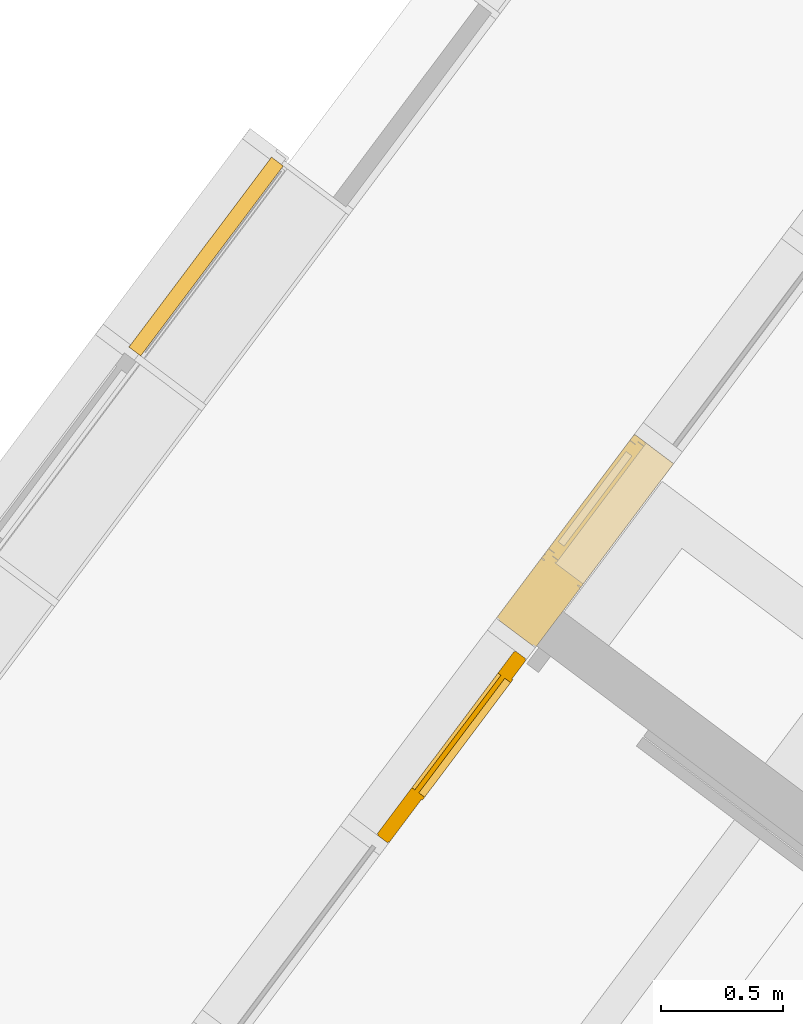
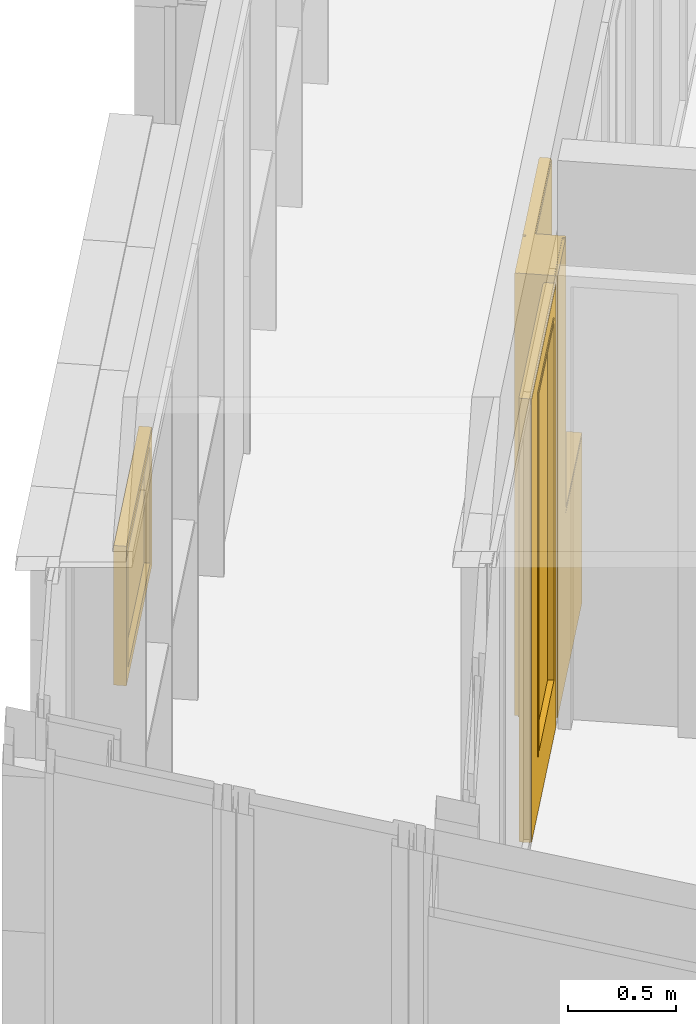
# One storey, part 175 of 243: 2 doors, 1 window, 2 elements without a shape of their own.
"""IFC2X3 building model written with IfcOpenShell, lengths in metres."""

from ifc_helpers import new_model, entity, si_unit, converted_unit, derived_unit, direction, frame, origin, place, context, subcontext, project, spatial, faceted_brep, source, transform, mapped, material, material_list, type_object, type_shapes, element, aggregate, save


model = new_model("IFC2X3")

# Units and contexts
model_context = context("Model", 3, precision=1e-05, world=origin(), true_north=direction((6.123031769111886e-17, 1.0)))
body_context = subcontext(model_context, "Body", "Model", "MODEL_VIEW")
ifc_project = project(units=[si_unit("LENGTHUNIT", "METRE"), si_unit("AREAUNIT", "SQUARE_METRE"), si_unit("VOLUMEUNIT", "CUBIC_METRE"), converted_unit("PLANEANGLEUNIT", "DEGREE", entity("IfcRatioMeasure", 0.017453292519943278), si_unit("PLANEANGLEUNIT", "RADIAN"), dimensions=[0, 0, 0, 0, 0, 0, 0]), si_unit("MASSUNIT", "GRAM", prefix="KILO"), derived_unit("MASSDENSITYUNIT", [(si_unit("MASSUNIT", "GRAM", prefix="KILO"), 1), (si_unit("LENGTHUNIT", "METRE"), -3)]), derived_unit("IONCONCENTRATIONUNIT", [(si_unit("MASSUNIT", "GRAM", prefix="KILO"), 1), (si_unit("LENGTHUNIT", "METRE"), -3)]), derived_unit("MOMENTOFINERTIAUNIT", [(si_unit("LENGTHUNIT", "METRE"), 4)]), si_unit("TIMEUNIT", "SECOND"), si_unit("FREQUENCYUNIT", "HERTZ"), si_unit("THERMODYNAMICTEMPERATUREUNIT", "DEGREE_CELSIUS"), derived_unit("THERMALTRANSMITTANCEUNIT", [(si_unit("MASSUNIT", "GRAM", prefix="KILO"), 1), (si_unit("THERMODYNAMICTEMPERATUREUNIT", "KELVIN"), -1), (si_unit("TIMEUNIT", "SECOND"), -3)]), derived_unit("THERMALCONDUCTANCEUNIT", [(si_unit("MASSUNIT", "GRAM", prefix="KILO"), 1), (si_unit("THERMODYNAMICTEMPERATUREUNIT", "KELVIN"), -1), (si_unit("TIMEUNIT", "SECOND"), -3), (si_unit("LENGTHUNIT", "METRE"), 1)]), derived_unit("VOLUMETRICFLOWRATEUNIT", [(si_unit("LENGTHUNIT", "METRE"), 3), (si_unit("TIMEUNIT", "SECOND"), -1)]), derived_unit("MASSFLOWRATEUNIT", [(si_unit("MASSUNIT", "GRAM", prefix="KILO"), 1), (si_unit("TIMEUNIT", "SECOND"), -1)]), derived_unit("ROTATIONALFREQUENCYUNIT", [(si_unit("TIMEUNIT", "SECOND"), -1)]), si_unit("ELECTRICCURRENTUNIT", "AMPERE"), si_unit("ELECTRICVOLTAGEUNIT", "VOLT"), si_unit("POWERUNIT", "WATT"), si_unit("FORCEUNIT", "NEWTON", prefix="KILO"), si_unit("ILLUMINANCEUNIT", "LUX"), si_unit("LUMINOUSFLUXUNIT", "LUMEN"), si_unit("LUMINOUSINTENSITYUNIT", "CANDELA"), derived_unit("USERDEFINED", [(si_unit("MASSUNIT", "GRAM", prefix="KILO"), -1), (si_unit("LENGTHUNIT", "METRE"), -2), (si_unit("TIMEUNIT", "SECOND"), 3), (si_unit("LUMINOUSFLUXUNIT", "LUMEN"), 1)]), derived_unit("USERDEFINED", [(si_unit("MASSUNIT", "GRAM", prefix="KILO"), 1), (si_unit("TIMEUNIT", "SECOND"), -3), (si_unit("LENGTHUNIT", "METRE"), 3), (si_unit("ELECTRICCURRENTUNIT", "AMPERE"), -2)]), derived_unit("SOUNDPOWERUNIT", [(si_unit("MASSUNIT", "GRAM", prefix="KILO"), 1), (si_unit("TIMEUNIT", "SECOND"), -3), (si_unit("LENGTHUNIT", "METRE"), 2)]), derived_unit("SOUNDPRESSUREUNIT", [(si_unit("MASSUNIT", "GRAM", prefix="KILO"), 1), (si_unit("LENGTHUNIT", "METRE"), -1), (si_unit("TIMEUNIT", "SECOND"), -2)]), derived_unit("LINEARVELOCITYUNIT", [(si_unit("LENGTHUNIT", "METRE"), 1), (si_unit("TIMEUNIT", "SECOND"), -1)]), si_unit("PRESSUREUNIT", "PASCAL"), derived_unit("USERDEFINED", [(si_unit("MASSUNIT", "GRAM", prefix="KILO"), 1), (si_unit("LENGTHUNIT", "METRE"), -2), (si_unit("TIMEUNIT", "SECOND"), -2)]), derived_unit("LINEARFORCEUNIT", [(si_unit("MASSUNIT", "GRAM", prefix="KILO"), 1), (si_unit("TIMEUNIT", "SECOND"), -2)]), derived_unit("PLANARFORCEUNIT", [(si_unit("MASSUNIT", "GRAM", prefix="KILO"), 1), (si_unit("LENGTHUNIT", "METRE"), -1), (si_unit("TIMEUNIT", "SECOND"), -2)]), derived_unit("SPECIFICHEATCAPACITYUNIT", [(si_unit("THERMODYNAMICTEMPERATUREUNIT", "KELVIN"), -1), (si_unit("LENGTHUNIT", "METRE"), 2), (si_unit("TIMEUNIT", "SECOND"), -2)]), derived_unit("HEATINGVALUEUNIT", [(si_unit("LENGTHUNIT", "METRE"), 2), (si_unit("TIMEUNIT", "SECOND"), -2)]), derived_unit("VAPORPERMEABILITYUNIT", [(si_unit("LENGTHUNIT", "METRE"), -1), (si_unit("TIMEUNIT", "SECOND"), 1)]), derived_unit("DYNAMICVISCOSITYUNIT", [(si_unit("MASSUNIT", "GRAM", prefix="KILO"), 1), (si_unit("TIMEUNIT", "SECOND"), -1), (si_unit("LENGTHUNIT", "METRE"), -1)]), derived_unit("THERMALEXPANSIONCOEFFICIENTUNIT", [(si_unit("THERMODYNAMICTEMPERATUREUNIT", "KELVIN"), -1)]), derived_unit("MODULUSOFELASTICITYUNIT", [(si_unit("MASSUNIT", "GRAM", prefix="KILO"), 1), (si_unit("LENGTHUNIT", "METRE"), -1), (si_unit("TIMEUNIT", "SECOND"), -2)]), derived_unit("ISOTHERMALMOISTURECAPACITYUNIT", [(si_unit("LENGTHUNIT", "METRE"), 3), (si_unit("MASSUNIT", "GRAM", prefix="KILO"), -1)]), derived_unit("MOISTUREDIFFUSIVITYUNIT", [(si_unit("TIMEUNIT", "SECOND"), -1), (si_unit("LENGTHUNIT", "METRE"), 2)])], contexts=[model_context])

# Site, building, storey
site_placement = place(None, frame((0.0, 0.0, 235.0), z_axis=(0.0, 0.0, 1.0), x_axis=(-0.7996477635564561, 0.6004693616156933, 0.0)))
site = spatial("IfcSite", under=ifc_project, at=site_placement, Name="Default", CompositionType="ELEMENT")
building_placement = place(site_placement, origin())
building = spatial("IfcBuilding", under=site, at=building_placement, CompositionType="ELEMENT")
storey_placement = place(building_placement, origin())
storey = spatial("IfcBuildingStorey", under=building, at=storey_placement, Name="P0- Escola", CompositionType="ELEMENT", Elevation=0.0)

# Curtain wall, doors
curtain_wall_type_1 = type_object("IfcCurtainWallType", Name="Muro cortina:MC- INT- a1", PredefinedType="NOTDEFINED")
curtain_wall_1_placement = place(storey_placement, origin())
curtain_wall_1 = element("IfcCurtainWall", 1, at=curtain_wall_1_placement, inside=storey, type_object=curtain_wall_type_1, Name="Muro cortina:MC- INT- a1", ObjectType="Muro cortina:MC- INT- a1")
ifc_material_1 = material(Name="_Fusta massisa- T1")
ifc_material_2 = material(Name="_Vidre")
ifc_material_list_1 = material_list([ifc_material_1, ifc_material_2])
door_style_1 = type_object("IfcDoorStyle", Name="MC- Fusta- conjunt porta:MC- Fusta- conjunt Porta aules", ConstructionType="NOTDEFINED", OperationType="NOTDEFINED", ParameterTakesPrecedence=False, Sizeable=False, material=ifc_material_list_1)
shared_shape_1 = source(origin(), body_context, "Body", "Brep", [
    faceted_brep([(-0.24500000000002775, -0.04499999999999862, 2.3799999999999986), (-0.24500000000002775, -0.014999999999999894, 2.3799999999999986), (-0.24500000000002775, -0.01499999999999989, 0.3299999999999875), (-0.24500000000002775, -0.04499999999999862, 0.3299999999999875), (0.37000000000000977, -0.01499999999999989, 0.3299999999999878), (0.37000000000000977, -0.04499999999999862, 0.3299999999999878), (0.3700000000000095, -0.01499999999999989, 2.3799999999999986), (0.3700000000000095, -0.04499999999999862, 2.3799999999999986), (-0.2300000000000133, -0.014999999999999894, 2.3650000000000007), (-0.2300000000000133, -0.014999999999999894, 0.34499999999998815), (0.3549999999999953, -0.014999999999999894, 0.3449999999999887), (0.3549999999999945, -0.014999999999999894, 2.3650000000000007), (-0.2300000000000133, -0.04499999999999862, 2.3650000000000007), (0.3549999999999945, -0.04499999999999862, 2.3650000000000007), (0.3549999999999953, -0.04499999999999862, 0.3449999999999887), (-0.2300000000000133, -0.04499999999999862, 0.34499999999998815)], [[[0, 1, 2, 3]], [[3, 2, 4, 5]], [[5, 4, 6, 7]], [[8, 9, 10, 11], [1, 6, 4, 2]], [[12, 13, 14, 15], [0, 3, 5, 7]], [[15, 9, 8, 12]], [[14, 10, 9, 15]], [[13, 11, 10, 14]], [[7, 6, 1, 0]], [[12, 8, 11, 13]]], outer=[[True], [True], [True], [False, True], [False, True], [True], [True], [True], [True], [True]]),
    faceted_brep([(-0.4399999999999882, 0.01999999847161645, 0.0), (0.4399999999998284, 0.019999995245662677, 0.0), (0.4399999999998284, -0.010000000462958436, 0.0), (0.4549999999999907, -0.010000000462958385, 0.0), (0.4549999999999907, -0.0399999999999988, 0.0), (-0.45500000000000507, -0.03999999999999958, 0.0), (-0.45500000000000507, -0.010000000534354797, 0.0), (-0.4399999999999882, -0.010000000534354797, 0.0), (-0.45500000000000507, -0.03999999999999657, 2.4899999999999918), (0.4549999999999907, -0.03999999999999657, 2.4899999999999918), (-0.2450000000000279, -0.039999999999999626, 0.3300000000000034), (-0.2450000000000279, -0.039999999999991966, 2.3799999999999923), (0.3700000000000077, -0.0399999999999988, 2.3799999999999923), (0.3700000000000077, -0.039999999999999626, 0.3300000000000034), (-0.4550000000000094, -0.010000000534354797, 2.4899999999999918), (0.4549999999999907, -0.010000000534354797, 2.4899999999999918), (-0.4399999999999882, 0.019999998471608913, 2.4749999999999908), (-0.4399999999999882, -0.010000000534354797, 2.4749999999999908), (0.4399999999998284, -0.010000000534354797, 2.4749999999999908), (0.4399999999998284, 0.019999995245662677, 2.4749999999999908), (0.3549999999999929, 0.019999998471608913, 0.3450000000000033), (0.3549999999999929, 0.019999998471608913, 2.364999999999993), (-0.2300000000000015, 0.01999999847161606, 2.364999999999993), (-0.2300000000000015, 0.019999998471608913, 0.3450000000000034), (-0.2300000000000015, 0.005000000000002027, 0.3450000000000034), (0.3549999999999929, 0.005000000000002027, 0.3450000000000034), (-0.2300000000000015, 0.005000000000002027, 2.364999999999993), (0.3549999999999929, 0.0049999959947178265, 2.364999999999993), (0.3700000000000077, 0.005000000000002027, 0.3300000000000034), (0.3700000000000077, 0.005000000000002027, 2.3799999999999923), (-0.24500000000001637, 0.005000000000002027, 2.3799999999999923), (-0.2450000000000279, 0.005000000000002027, 0.3300000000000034), (-0.24500000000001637, 0.004999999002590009, 0.3300000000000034), (-0.24500000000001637, 0.0049999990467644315, 2.3799999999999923), (0.3549999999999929, 0.01999999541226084, 2.364999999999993), (-0.2300000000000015, 0.004999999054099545, 2.364999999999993), (0.3700000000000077, 0.004999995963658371, 2.3799999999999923)], [[[0, 1, 2, 3, 4, 5, 6, 7]], [[8, 5, 4, 9], [10, 11, 12, 13]], [[8, 14, 6, 5]], [[15, 9, 4, 3]], [[16, 0, 7, 17]], [[14, 15, 3, 2, 18, 17, 7, 6]], [[18, 2, 1, 19]], [[20, 21, 22, 23], [16, 19, 1, 0]], [[23, 24, 25, 20]], [[23, 22, 26, 24]], [[25, 27, 21, 20]], [[24, 26, 27, 25], [28, 29, 30, 31]], [[13, 28, 32, 10]], [[31, 33, 11, 10]], [[13, 12, 29, 28]], [[9, 15, 14, 8]], [[17, 18, 19, 16]], [[34, 27, 35, 22]], [[11, 30, 36, 12]]], outer=[[True], [True, False], [True], [True], [True], [True], [True], [False, True], [True], [True], [True], [False, True], [True], [True], [True], [True], [True], [True], [True]]),
    faceted_brep([(0.3700000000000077, 0.004999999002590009, 0.3300000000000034), (0.3700000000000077, -0.0149999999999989, 0.3300000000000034), (-0.24500000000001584, -0.014999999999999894, 0.3300000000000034), (-0.24500000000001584, 0.004999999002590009, 0.3300000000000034), (0.3700000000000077, 0.004999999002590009, 2.380000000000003), (-0.24500000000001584, 0.004999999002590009, 2.380000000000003), (-0.24500000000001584, -0.014999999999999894, 2.380000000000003), (0.3700000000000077, -0.0149999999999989, 2.380000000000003)], [[[0, 1, 2, 3]], [[4, 0, 3, 5]], [[5, 3, 2, 6]], [[6, 2, 1, 7]], [[7, 1, 0, 4]], [[4, 5, 6, 7]]]),
    faceted_brep([(-0.46500000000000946, -0.03999999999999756, 0.0), (-0.46500000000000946, -0.035999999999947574, 0.0), (-0.469999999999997, -0.035999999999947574, 0.0), (-0.469999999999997, 0.016000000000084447, 0.0), (-0.46500000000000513, 0.016000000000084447, 0.0), (-0.46500000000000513, 0.02000000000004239, 0.0), (-0.44000000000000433, 0.02000000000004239, 0.0), (-0.44000000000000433, -0.00999999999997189, 0.0), (-0.4550000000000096, -0.00999999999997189, 0.0), (-0.4550000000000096, -0.03999999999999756, 0.0), (-0.45500000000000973, -0.03999999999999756, 2.4900000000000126), (0.45500000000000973, -0.03999999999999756, 2.4900000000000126), (0.45500000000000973, -0.03999999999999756, 0.0), (0.46500000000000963, -0.03999999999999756, 0.0), (0.46500000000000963, -0.03999999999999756, 2.5000000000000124), (-0.4650000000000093, -0.03999999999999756, 2.500000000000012), (-0.4550000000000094, -0.00999999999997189, 2.4900000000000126), (-0.4400000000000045, -0.00999999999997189, 2.4750000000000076), (0.4400000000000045, -0.00999999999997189, 2.4750000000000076), (0.4400000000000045, -0.00999999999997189, 0.0), (0.45500000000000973, -0.00999999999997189, 0.0), (0.45500000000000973, -0.00999999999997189, 2.4900000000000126), (-0.4400000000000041, 0.02000000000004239, 2.4750000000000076), (-0.4650000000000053, 0.02000000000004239, 2.5000000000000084), (0.4650000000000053, 0.02000000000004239, 2.5000000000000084), (0.4650000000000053, 0.02000000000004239, 0.0), (0.4400000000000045, 0.02000000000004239, 0.0), (0.4400000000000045, 0.02000000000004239, 2.4750000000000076), (-0.46500000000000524, 0.016000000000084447, 2.5000000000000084), (-0.4699999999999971, 0.016000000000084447, 2.5050000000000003), (0.4699999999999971, 0.016000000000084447, 2.5050000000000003), (0.4699999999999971, 0.016000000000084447, 0.0), (0.4650000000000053, 0.016000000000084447, 0.0), (0.4650000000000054, 0.016000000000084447, 2.5000000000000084), (-0.46999999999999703, -0.035999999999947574, 2.5050000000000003), (-0.46500000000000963, -0.035999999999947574, 2.5000000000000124), (0.46500000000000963, -0.035999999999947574, 2.5000000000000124), (0.46500000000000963, -0.035999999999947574, 0.0), (0.4699999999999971, -0.035999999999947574, 0.0), (0.46999999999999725, -0.035999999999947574, 2.5050000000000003)], [[[0, 1, 2, 3, 4, 5, 6, 7, 8, 9]], [[9, 10, 11, 12, 13, 14, 15, 0]], [[8, 16, 10, 9]], [[7, 17, 18, 19, 20, 21, 16, 8]], [[6, 22, 17, 7]], [[5, 23, 24, 25, 26, 27, 22, 6]], [[4, 28, 23, 5]], [[3, 29, 30, 31, 32, 33, 28, 4]], [[2, 34, 29, 3]], [[1, 35, 36, 37, 38, 39, 34, 2]], [[0, 15, 35, 1]], [[14, 13, 37, 36]], [[13, 12, 20, 19, 26, 25, 32, 31, 38, 37]], [[21, 20, 12, 11]], [[27, 26, 19, 18]], [[33, 32, 25, 24]], [[39, 38, 31, 30]], [[16, 21, 11, 10]], [[22, 27, 18, 17]], [[28, 33, 24, 23]], [[34, 39, 30, 29]], [[15, 14, 36, 35]]]),
])
type_shapes(door_style_1, [shared_shape_1])
door_1_placement = place(curtain_wall_1_placement, frame((60.02014768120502, -22.91518997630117, 0.0), z_axis=(0.0, 0.0, 1.0), x_axis=(0.0, -1.0, 0.0)))
door_1 = element("IfcDoor", 2, at=door_1_placement, type_object=door_style_1, material=ifc_material_list_1, Name="MC- Fusta- conjunt porta:MC- Fusta- conjunt Porta aules", ObjectType="MC- Fusta- conjunt porta:MC- Fusta- conjunt Porta aules", OverallHeight=2.5050000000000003, OverallWidth=0.9399999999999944, context=body_context, shape_type="MappedRepresentation", body=[
    mapped(shared_shape_1, transform((0.0, 0.0, 0.0), scale=1.0)),
])
ifc_material_3 = material(Name="_Fusta massisa- T1-  REV- PAV")
ifc_material_4 = material(Name="_Aillament")
ifc_material_list_2 = material_list([ifc_material_3, ifc_material_4])
door_style_2 = type_object("IfcDoorStyle", Name="MC- Fusta- Finestra ventilacio interior- Enva:MC- Fusta- Finestra ventilacio interior- Enva", ConstructionType="NOTDEFINED", OperationType="NOTDEFINED", ParameterTakesPrecedence=False, Sizeable=False, material=ifc_material_list_2)
shared_shape_2 = source(origin(), body_context, "Body", "Brep", [
    faceted_brep([(0.39300000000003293, 0.14500000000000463, 2.427999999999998), (-0.06799999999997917, 0.14500000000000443, 2.4280000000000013), (-0.06799999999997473, 0.14500000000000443, 1.0449999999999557), (0.39300000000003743, 0.14500000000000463, 1.0449999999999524), (-0.06799999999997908, 0.11500000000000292, 2.4280000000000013), (-0.0679999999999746, 0.11500000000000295, 1.0449999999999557), (0.39300000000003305, 0.11500000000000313, 2.427999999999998), (0.3930000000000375, 0.11500000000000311, 1.0449999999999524), (-0.11299999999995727, 0.15999999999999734, 2.4729999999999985), (-0.11299999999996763, 0.16000000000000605, 1.0), (-0.11299999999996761, 0.13000000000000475, 1.0), (-0.11299999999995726, 0.1299999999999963, 2.4729999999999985), (0.43800000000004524, 0.13000000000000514, 1.0), (0.43800000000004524, 0.16000000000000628, 1.0), (0.4380000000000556, 0.15999999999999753, 2.472999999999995), (0.4380000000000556, 0.13000000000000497, 2.4730000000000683), (-0.12799999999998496, 0.12999999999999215, 0.9850000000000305), (-0.12799999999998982, 0.13000000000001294, 2.4880000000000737), (0.4530000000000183, 0.13000000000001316, 2.4880000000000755), (0.45300000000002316, 0.12999999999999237, 0.9850000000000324), (-0.1279999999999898, 0.1000000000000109, 2.4880000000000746), (-0.12799999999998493, 0.09999999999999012, 0.9850000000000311), (0.45300000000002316, 0.09999999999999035, 0.985000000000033), (0.4530000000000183, 0.10000000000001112, 2.488000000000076)], [[[0, 1, 2, 3]], [[1, 4, 5, 2]], [[4, 6, 7, 5]], [[3, 7, 6, 0]], [[8, 9, 10, 11]], [[12, 13, 14, 15]], [[15, 14, 8, 11]], [[8, 14, 13, 9]], [[0, 6, 4, 1]], [[2, 5, 7, 3]], [[9, 13, 12, 10]], [[11, 10, 12, 15], [16, 17, 18, 19]], [[20, 21, 22, 23]], [[20, 23, 18, 17]], [[16, 21, 20, 17]], [[18, 23, 22, 19]], [[16, 19, 22, 21]]], outer=[[True], [True], [True], [True], [True], [True], [True], [True], [True], [True], [True], [False, True], [True], [True], [True], [True], [True]]),
    faceted_brep([(0.4650000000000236, 0.14500000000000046, 0.005000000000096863), (0.4650000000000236, 0.1450000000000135, 0.9480000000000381), (-0.16499999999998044, 0.14500000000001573, 0.9480000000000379), (-0.16499999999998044, 0.14500000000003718, 2.5000000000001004), (-0.46500000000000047, 0.14500000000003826, 2.5000000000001), (-0.46500000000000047, 0.14500000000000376, 0.005000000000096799), (0.46500000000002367, 0.15999999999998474, 0.005000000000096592), (0.46500000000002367, 0.15999999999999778, 0.9480000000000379), (-0.16499999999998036, 0.16, 0.9480000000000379), (-0.16499999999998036, 0.1600000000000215, 2.5000000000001), (-0.4650000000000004, 0.16000000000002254, 2.5000000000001), (-0.4650000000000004, 0.159999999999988, 0.005000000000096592)], [[[0, 1, 2, 3, 4, 5]], [[6, 7, 1, 0]], [[7, 8, 2, 1]], [[8, 9, 3, 2]], [[10, 11, 5, 4]], [[11, 6, 0, 5]], [[6, 11, 10, 9, 8, 7]], [[9, 10, 4, 3]]]),
    faceted_brep([(0.465000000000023, -0.039999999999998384, 0.0050000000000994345), (0.465000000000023, -0.039999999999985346, 0.9480000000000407), (-0.16499999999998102, -0.039999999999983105, 0.9480000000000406), (-0.16499999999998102, -0.03999999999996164, 2.500000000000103), (-0.4650000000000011, -0.03999999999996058, 2.5000000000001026), (-0.4650000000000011, -0.03999999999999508, 0.005000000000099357), (0.465000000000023, -0.025000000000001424, 0.005000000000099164), (0.465000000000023, -0.024999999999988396, 0.9480000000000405), (-0.164999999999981, -0.024999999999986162, 0.9480000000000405), (-0.164999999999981, -0.024999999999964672, 2.500000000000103), (-0.4650000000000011, -0.02499999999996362, 2.5000000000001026), (-0.4650000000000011, -0.024999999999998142, 0.00500000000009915)], [[[0, 1, 2, 3, 4, 5]], [[6, 7, 1, 0]], [[7, 8, 2, 1]], [[8, 9, 3, 2]], [[10, 11, 5, 4]], [[11, 6, 0, 5]], [[6, 11, 10, 9, 8, 7]], [[9, 10, 4, 3]]]),
    faceted_brep([(0.4700000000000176, -0.02500000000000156, 0.0), (0.4700000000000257, -0.024999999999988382, 0.9530000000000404), (-0.1599999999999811, -0.02499999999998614, 0.95300000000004), (-0.1599999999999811, -0.024999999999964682, 2.5050000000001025), (-0.47000000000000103, -0.02499999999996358, 2.5050000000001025), (-0.4699999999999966, -0.024999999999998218, 0.0), (0.47000000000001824, 0.14500000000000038, 0.0), (0.4700000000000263, 0.14500000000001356, 0.9530000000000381), (-0.1599999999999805, 0.14500000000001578, 0.9530000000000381), (-0.1599999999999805, 0.14500000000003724, 2.5050000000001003), (-0.4700000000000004, 0.14500000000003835, 2.5050000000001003), (-0.469999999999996, 0.1450000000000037, 0.0)], [[[0, 1, 2, 3, 4, 5]], [[6, 7, 1, 0]], [[7, 8, 2, 1]], [[8, 9, 3, 2]], [[10, 11, 5, 4]], [[11, 6, 0, 5]], [[6, 11, 10, 9, 8, 7]], [[9, 10, 4, 3]]]),
    faceted_brep([(0.4700000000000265, 0.15999999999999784, 0.9530000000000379), (0.4700000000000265, 0.15999999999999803, 0.9680000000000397), (0.4700000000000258, -0.04000000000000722, 0.9680000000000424), (0.4700000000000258, -0.04000000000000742, 0.9530000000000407), (-0.1599999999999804, 0.16000000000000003, 0.9530000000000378), (-0.1599999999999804, 0.1600000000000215, 2.505000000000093), (-0.14499999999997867, 0.16000000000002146, 2.505000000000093), (-0.1449999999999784, 0.16000000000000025, 0.9680000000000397), (-0.14499999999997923, -0.04000000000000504, 0.9680000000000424), (-0.1449999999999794, -0.0399999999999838, 2.505000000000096), (-0.15999999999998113, -0.039999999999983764, 2.505000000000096), (-0.15999999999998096, -0.04000000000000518, 0.9530000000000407)], [[[0, 1, 2, 3]], [[1, 0, 4, 5, 6, 7]], [[2, 1, 7, 8]], [[3, 2, 8, 9, 10, 11]], [[0, 3, 11, 4]], [[4, 11, 10, 5]], [[8, 7, 6, 9]], [[5, 10, 9, 6]]]),
    faceted_brep([(-0.14499999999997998, 0.10400000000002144, 2.5050000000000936), (-0.14499999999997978, 0.15600000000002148, 2.5050000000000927), (-0.14499999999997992, 0.15600000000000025, 0.9680000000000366), (-0.1449999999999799, 0.10400000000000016, 0.9680000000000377), (-0.13999999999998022, 0.15600000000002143, 2.5000000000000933), (-0.1399999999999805, 0.1560000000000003, 0.973000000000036), (0.46500000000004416, 0.15599999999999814, 0.9729999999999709), (0.46500000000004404, 0.15600000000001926, 2.5000000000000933), (0.47000000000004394, 0.1560000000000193, 2.505000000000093), (0.46999999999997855, 0.15599999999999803, 0.9680000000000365), (0.46999999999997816, 0.10399999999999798, 0.9680000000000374), (0.47000000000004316, 0.10400000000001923, 2.505000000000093), (0.4650000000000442, 0.1040000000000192, 2.5000000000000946), (0.46499999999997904, 0.10399999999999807, 0.9730000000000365), (-0.1399999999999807, 0.10400000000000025, 0.9730000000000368), (-0.13999999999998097, 0.10400000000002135, 2.5000000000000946), (-0.13999999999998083, 0.10000000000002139, 2.5000000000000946), (-0.1399999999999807, 0.10000000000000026, 0.9730000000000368), (0.4649999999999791, 0.09999999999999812, 0.9730000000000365), (0.46500000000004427, 0.10000000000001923, 2.5000000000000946), (0.45500000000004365, 0.10000000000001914, 2.490000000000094), (0.45499999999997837, 0.09999999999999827, 0.9830000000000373), (-0.12999999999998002, 0.10000000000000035, 0.9830000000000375), (-0.1299999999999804, 0.10000000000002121, 2.490000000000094), (-0.1299999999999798, 0.1300000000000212, 2.4900000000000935), (-0.12999999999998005, 0.13000000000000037, 0.983000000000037), (0.45499999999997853, 0.1299999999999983, 0.9830000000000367), (0.45500000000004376, 0.13000000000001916, 2.4900000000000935), (0.44000000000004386, 0.13000000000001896, 2.475000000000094), (0.43999999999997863, 0.1299999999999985, 0.9980000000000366), (-0.11499999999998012, 0.1300000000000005, 0.9980000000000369), (-0.11499999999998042, 0.13000000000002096, 2.475000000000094), (-0.11499999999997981, 0.16000000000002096, 2.475000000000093), (-0.11499999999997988, 0.1600000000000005, 0.9980000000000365), (0.43999999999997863, 0.15999999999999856, 0.9980000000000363), (0.4400000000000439, 0.160000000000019, 2.475000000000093), (0.46500000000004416, 0.16000000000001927, 2.5000000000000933), (0.4649999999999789, 0.15999999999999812, 0.973000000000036), (-0.13999999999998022, 0.16000000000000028, 0.9730000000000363), (-0.13999999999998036, 0.16000000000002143, 2.5000000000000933)], [[[0, 1, 2, 3]], [[4, 5, 6, 7], [8, 9, 2, 1]], [[3, 2, 9, 10]], [[0, 3, 10, 11], [12, 13, 14, 15]], [[16, 15, 14, 17]], [[17, 14, 13, 18]], [[16, 17, 18, 19], [20, 21, 22, 23]], [[24, 23, 22, 25]], [[25, 22, 21, 26]], [[24, 25, 26, 27], [28, 29, 30, 31]], [[32, 31, 30, 33]], [[33, 30, 29, 34]], [[32, 33, 34, 35], [36, 37, 38, 39]], [[4, 39, 38, 5]], [[5, 38, 37, 6]], [[10, 9, 8, 11]], [[18, 13, 12, 19]], [[26, 21, 20, 27]], [[34, 29, 28, 35]], [[6, 37, 36, 7]], [[11, 8, 1, 0]], [[19, 12, 15, 16]], [[27, 20, 23, 24]], [[35, 28, 31, 32]], [[7, 36, 39, 4]]], outer=[[True], [False, True], [True], [True, False], [True], [True], [True, False], [True], [True], [True, False], [True], [True], [False, True], [True], [True], [True], [True], [True], [True], [True], [True], [True], [True], [True], [True]]),
])
type_shapes(door_style_2, [shared_shape_2])
door_2_placement = place(curtain_wall_1_placement, frame((60.02014768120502, -23.915189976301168, 0.0), z_axis=(0.0, 0.0, 1.0), x_axis=(0.0, -1.0, 0.0)))
door_2 = element("IfcDoor", 3, at=door_2_placement, type_object=door_style_2, material=ifc_material_list_2, Name="MC- Fusta- Finestra ventilacio interior- Enva:MC- Fusta- Finestra ventilacio interior- Enva", ObjectType="MC- Fusta- Finestra ventilacio interior- Enva:MC- Fusta- Finestra ventilacio interior- Enva", OverallHeight=2.5050000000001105, OverallWidth=0.9400000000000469, context=body_context, shape_type="MappedRepresentation", body=[
    mapped(shared_shape_2, transform((0.0, 0.0, 0.0), scale=1.0)),
])
aggregate(curtain_wall_1, [door_1, door_2])

# Curtain wall, window
curtain_wall_type_2 = type_object("IfcCurtainWallType", Name="Muro cortina:MC- EXT- MC5", PredefinedType="NOTDEFINED")
curtain_wall_2_placement = place(storey_placement, origin())
curtain_wall_2 = element("IfcCurtainWall", 4, at=curtain_wall_2_placement, inside=storey, type_object=curtain_wall_type_2, Name="Muro cortina:MC- EXT- MC5", ObjectType="Muro cortina:MC- EXT- MC5")
ifc_material_5 = material(Name="_Alumini- T1- Perfil")
ifc_material_list_3 = material_list([ifc_material_2, ifc_material_5])
window_style = type_object("IfcWindowStyle", Name="MC- Alu- Conjunt vidre fix- 62x60 cm:MC- Alu- Conjunt vidre fix- 62x60 cm", ConstructionType="NOTDEFINED", OperationType="NOTDEFINED", ParameterTakesPrecedence=False, Sizeable=False, material=ifc_material_list_3)
shared_shape_3 = source(origin(), body_context, "Body", "Brep", [
    faceted_brep([(-0.43619328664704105, -0.007600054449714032, 0.048806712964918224), (0.43619328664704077, -0.007600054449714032, 0.048806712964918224), (0.43619328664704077, -0.03160022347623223, 0.048806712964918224), (-0.43619328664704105, -0.03160022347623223, 0.048806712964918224), (-0.43619328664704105, -0.007600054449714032, 0.7387000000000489), (0.43619328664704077, -0.007600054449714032, 0.7387000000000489), (0.43619328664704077, -0.03160022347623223, 0.7387000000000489), (-0.43619328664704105, -0.03160022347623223, 0.7387000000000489)], [[[0, 1, 2, 3]], [[4, 5, 1, 0]], [[5, 6, 2, 1]], [[6, 7, 3, 2]], [[7, 4, 0, 3]], [[4, 7, 6, 5]]]),
    faceted_brep([(-0.4849999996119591, -0.05999999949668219, 0.7877000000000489), (-0.4849999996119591, 0.0, 0.7877000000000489), (-0.4849999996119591, 0.0, 0.0), (-0.4849999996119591, -0.05999999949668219, 0.0), (-0.422193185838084, 0.0, 0.7248931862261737), (-0.4221931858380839, 0.0, 0.06280681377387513), (0.42219318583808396, 0.0, 0.06280681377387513), (0.42219318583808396, 0.0, 0.7248931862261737), (0.4849999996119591, 0.0, 0.7877000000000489), (0.4849999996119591, 0.0, 0.0), (0.4849999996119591, -0.05999999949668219, 0.0), (0.4849999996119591, -0.05999999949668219, 0.7877000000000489), (0.4221960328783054, -0.05999999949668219, 0.7248960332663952), (0.4221960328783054, -0.05999999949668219, 0.0628039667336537), (-0.4221960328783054, -0.05999999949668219, 0.0628039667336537), (-0.4221960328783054, -0.05999999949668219, 0.7248960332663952), (-0.4221960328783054, -0.03160022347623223, 0.7248960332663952), (-0.4221960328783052, -0.03160022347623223, 0.06280396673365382), (0.4221960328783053, -0.03160022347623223, 0.06280396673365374), (0.42219603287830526, -0.03160022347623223, 0.7248960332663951), (0.43619328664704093, -0.03160022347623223, 0.7388932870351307), (0.43619328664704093, -0.03160022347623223, 0.048806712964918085), (-0.43619328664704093, -0.03160022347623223, 0.04880671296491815), (-0.43619328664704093, -0.03160022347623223, 0.7388932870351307), (-0.43619328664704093, -0.007600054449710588, 0.7388932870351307), (-0.43619328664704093, -0.007600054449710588, 0.04880671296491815), (0.43619328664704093, -0.007600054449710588, 0.048806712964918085), (0.43619328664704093, -0.007600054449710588, 0.7388932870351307), (0.42219318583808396, -0.007600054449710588, 0.7248931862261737), (0.42219318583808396, -0.007600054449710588, 0.06280681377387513), (-0.42219318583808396, -0.007600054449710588, 0.06280681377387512), (-0.42219318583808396, -0.007600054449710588, 0.7248931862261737)], [[[0, 1, 2, 3]], [[4, 5, 6, 7], [8, 9, 2, 1]], [[3, 2, 9, 10]], [[0, 3, 10, 11], [12, 13, 14, 15]], [[16, 15, 14, 17]], [[17, 14, 13, 18]], [[16, 17, 18, 19], [20, 21, 22, 23]], [[24, 23, 22, 25]], [[25, 22, 21, 26]], [[24, 25, 26, 27], [28, 29, 30, 31]], [[4, 31, 30, 5]], [[5, 30, 29, 6]], [[10, 9, 8, 11]], [[18, 13, 12, 19]], [[26, 21, 20, 27]], [[6, 29, 28, 7]], [[11, 8, 1, 0]], [[19, 12, 15, 16]], [[27, 20, 23, 24]], [[7, 28, 31, 4]]], outer=[[True], [False, True], [True], [True, False], [True], [True], [False, True], [True], [True], [True, False], [True], [True], [True], [True], [True], [True], [True], [True], [True], [True]]),
])
type_shapes(window_style, [shared_shape_3])
window_placement = place(curtain_wall_2_placement, frame((62.04514768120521, -23.91519175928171, 0.03229999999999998), z_axis=(0.0, 0.0, 1.0), x_axis=(0.0, -1.0, 0.0)))
window = element("IfcWindow", 5, at=window_placement, type_object=window_style, material=ifc_material_list_3, Name="MC- Alu- Conjunt vidre fix- 62x60 cm:MC- Alu- Conjunt vidre fix- 62x60 cm", ObjectType="MC- Alu- Conjunt vidre fix- 62x60 cm:MC- Alu- Conjunt vidre fix- 62x60 cm", OverallHeight=0.7877000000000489, OverallWidth=0.9699999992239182, context=body_context, shape_type="MappedRepresentation", body=[
    mapped(shared_shape_3, transform((0.0, 0.0, 0.0), scale=1.0)),
])
aggregate(curtain_wall_2, [window])

save(model, "model.ifc")
